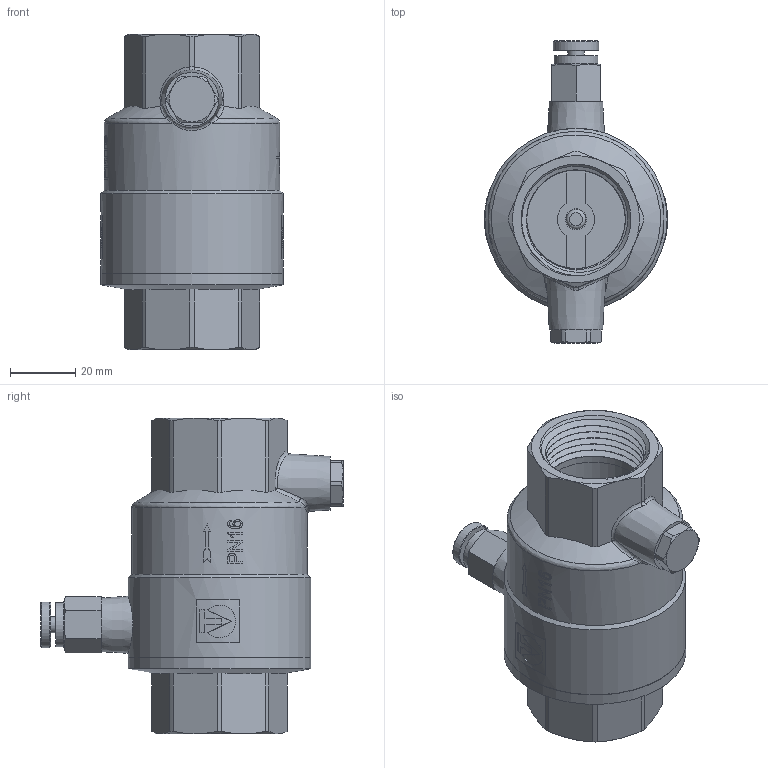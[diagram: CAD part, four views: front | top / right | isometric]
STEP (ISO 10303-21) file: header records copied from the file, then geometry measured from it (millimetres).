
FILE_DESCRIPTION(/* description */ (''),/* implementation_level */ '2;1');
FILE_NAME(/* name */ 'F:\Артём\00000\Работа удаленка\═╝╓╜\VT.171\VT.171.N.06.stp',/* time_stamp */ '2021-04-01T15:20:48+03:00',/* author */ ('almis'),/* organization */ (''),/* preprocessor_version */ 'ST-DEVELOPER v18',/* originating_system */ 'Autodesk Inventor 2020',/* authorisation */ '');
FILE_SCHEMA (('AUTOMOTIVE_DESIGN { 1 0 10303 214 3 1 1 }'));
Length unit declared in the file: millimetre
Products named in the file (1): VT.171.N.06
Bounding box: 56.2 x 92.85 x 97 mm (x, y, z)
Volume: 93511.6 mm3; surface area: 50277.5 mm2
Topology: 1 solids, 3 shells, 357 faces, 938 edges, 628 vertices
Faces by surface type: plane 175, cylinder 91, bspline 42, cone 41, torus 8
Full cylindrical faces by diameter (mm): 2 x1, 5 x5, 6 x3, 6.5 x2, 11 x1, 11.5 x2, 13.5 x1, 14 x1, 15.136 x1, 23.3 x1, 28.3 x1, 30.3 x10, 32.3 x1, 41.5 x1, 44.5 x1, 44.7 x1, 49.1 x1, 49.5 x1, 51.5 x2, 54 x1, 55.8 x1, 56 x2
Entity records: 17655 total; most frequent: CARTESIAN_POINT 8993, ORIENTED_EDGE 1876, DIRECTION 1724, EDGE_CURVE 938, AXIS2_PLACEMENT_3D 678, VERTEX_POINT 628, EDGE_LOOP 408, LINE 368
